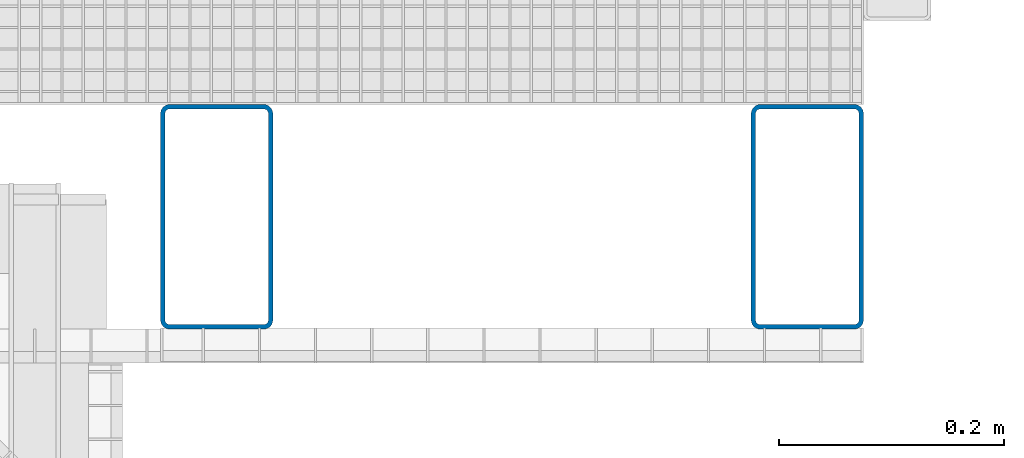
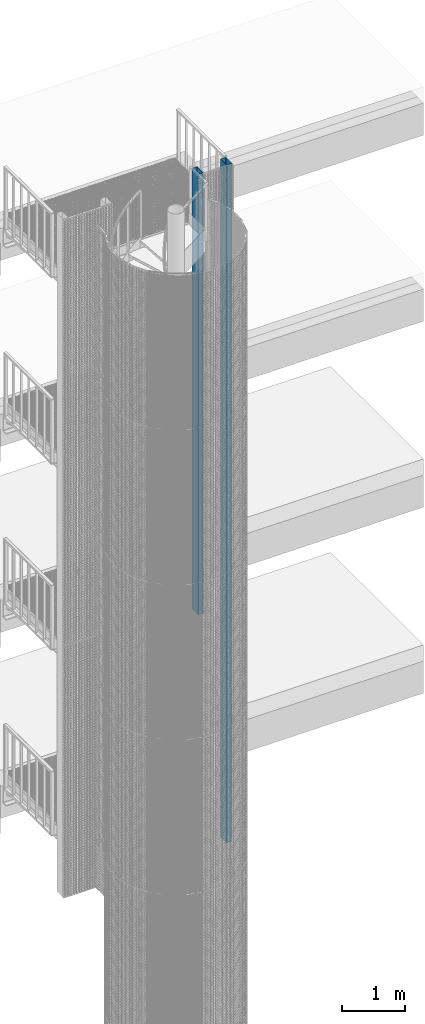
# One storey, part 73 of 1183: 2 columns, 2 elements without a shape of their own.
"""IFC2X3 building model written with IfcOpenShell, lengths in millimetres."""

from ifc_helpers import new_model, si_unit, frame, origin_with_axes, origin_2d_with_axis, place, context, subcontext, project, spatial, hollow_rectangle, extrude, material, type_object, element, aggregate, save


model = new_model("IFC2X3")

# Units and contexts
model_context = context("Model", 3, precision=1e-05, world=origin_with_axes())
body_context = subcontext(model_context, "Body", "Model", "MODEL_VIEW")
ifc_project = project(units=[si_unit("LENGTHUNIT", "METRE", prefix="MILLI"), si_unit("AREAUNIT", "SQUARE_METRE"), si_unit("VOLUMEUNIT", "CUBIC_METRE"), si_unit("MASSUNIT", "GRAM", prefix="KILO"), si_unit("TIMEUNIT", "SECOND"), si_unit("PLANEANGLEUNIT", "RADIAN"), si_unit("SOLIDANGLEUNIT", "STERADIAN"), si_unit("THERMODYNAMICTEMPERATUREUNIT", "DEGREE_CELSIUS"), si_unit("LUMINOUSINTENSITYUNIT", "LUMEN")], contexts=[model_context])

# Site, building, storey
site_placement = place(None, origin_with_axes())
site = spatial("IfcSite", under=ifc_project, at=site_placement, Name="Undefined", CompositionType="ELEMENT")
building_placement = place(site_placement, origin_with_axes())
building = spatial("IfcBuilding", under=site, at=building_placement, Name="Undefined", CompositionType="ELEMENT")
storey_placement = place(building_placement, origin_with_axes())
storey = spatial("IfcBuildingStorey", under=building, at=storey_placement, Name="Undefined", CompositionType="ELEMENT", Elevation=0.0)

# Assembly, column
assembly_1_placement = place(storey_placement, origin_with_axes())
assembly_1 = element("IfcElementAssembly", 1, at=assembly_1_placement, inside=storey, AssemblyPlace="NOTDEFINED", PredefinedType="NOTDEFINED")
ifc_material = material(Name="STEEL/S235JR")
column_type = type_object("IfcColumnType", Name="TUBE-R-200*100*4", PredefinedType="NOTDEFINED")
column_1_placement = place(assembly_1_placement, frame((22573.920410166, 999.994689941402, 9770.00000000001), z_axis=(0.0, 0.0, 1.0), x_axis=(0.0, 1.0, 0.0)))
column_1 = element("IfcColumn", 2, at=column_1_placement, type_object=column_type, material=ifc_material, Name="EXISTANTS", context=body_context, shape_type="SweptSolid", body=[
    extrude(hollow_rectangle(XDim=100.0, YDim=200.0, WallThickness=4.0, InnerFilletRadius=4.0, OuterFilletRadius=8.0, at=origin_2d_with_axis()), frame((0.0, 0.0, 8519.99999999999), z_axis=(0.0, 0.0, -1.0), x_axis=(0.0, 1.0, 0.0)), (0.0, 0.0, 1.0), 8520.0),
])
aggregate(assembly_1, [column_1])

assembly_2_placement = place(storey_placement, origin_with_axes())
assembly_2 = element("IfcElementAssembly", 3, at=assembly_2_placement, inside=storey, AssemblyPlace="NOTDEFINED", PredefinedType="NOTDEFINED")
column_2_placement = place(assembly_2_placement, frame((23099.920410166, 999.994689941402, 5170.0), z_axis=(0.0, 0.0, 1.0), x_axis=(0.0, 1.0, 0.0)))
column_2 = element("IfcColumn", 4, at=column_2_placement, type_object=column_type, material=ifc_material, Name="EXISTANTS", context=body_context, shape_type="SweptSolid", body=[
    extrude(hollow_rectangle(XDim=100.0, YDim=200.0, WallThickness=4.0, InnerFilletRadius=4.0, OuterFilletRadius=8.0, at=origin_2d_with_axis()), frame((0.0, 0.0, 13120.0), z_axis=(0.0, 0.0, -1.0), x_axis=(0.0, 1.0, 0.0)), (0.0, 0.0, 1.0), 13120.0),
])
aggregate(assembly_2, [column_2])

save(model, "model.ifc")
